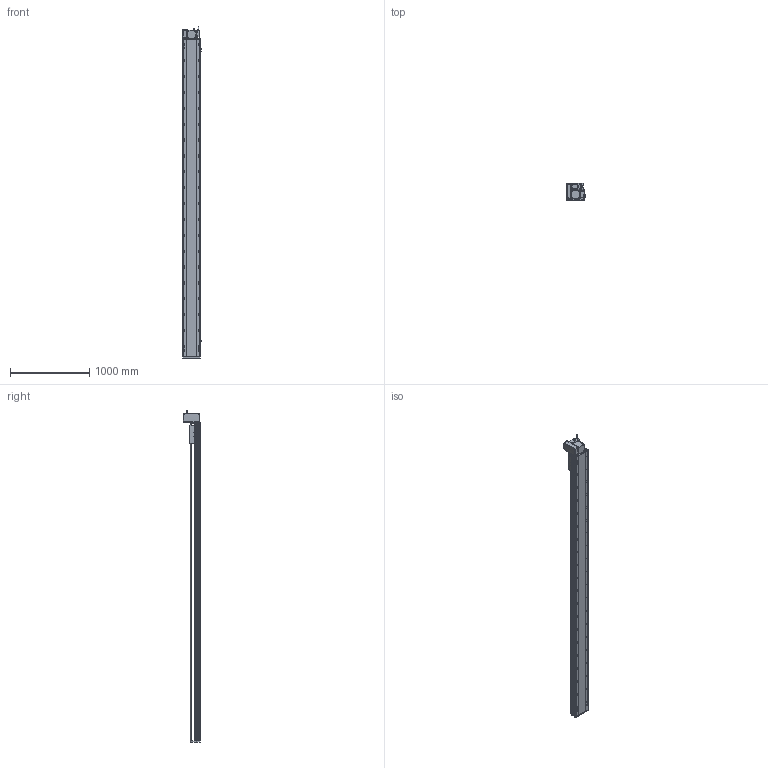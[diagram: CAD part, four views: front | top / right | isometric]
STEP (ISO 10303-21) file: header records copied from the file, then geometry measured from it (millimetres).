
FILE_DESCRIPTION (( 'STEP AP214' ), '1' );
FILE_NAME ('RTB22S-XX-3650-LW-M75-C4.STEP', '2025-12-12T07:09:14', ( '' ), ( '' ), 'SwSTEP 2.0', 'SolidWorks 2018', '' );
FILE_SCHEMA (( 'AUTOMOTIVE_DESIGN' ));
Length unit declared in the file: millimetre
Products named in the file (14): RTB22S-L-011菁釱^RTB22S-XX-XX-LW-M75-C4; RTB22S-GY-017P^RTB22S-LW-々湍釱蚾饜_RTB22S-XX-XX-LW-M75-C4; OMRON EE-SX672 传感器^RTB22S-XX-XX-LW-M75-C4; RTB22S-GY-008-M75--萇儂啣^RTB22S-LW-々湍釱蚾饜_RTB22S-XX-XX-LW-M75-C4; RTB22S-GY-014--々湍釱^RTB22S-LW-々湍釱蚾饜_RTB22S-XX-XX-LW-M75-C4; 750W萇儂^RTB22S-XX-XX-LW-M75-C4; RTB22S-LW-々湍釱蚾饜^RTB22S-XX-XX-LW-M75-C4; RTB22S-XX-3650-LW-M75-C4; RTB22S-GY-005P^RTB22S-LW-々湍釱蚾饜_RTB22S-XX-XX-LW-M75-C4; RTB22S-L-004賑釱^RTB22S-XX-XX-LW-M75-C4; RTH22-GY-013外置感应片^RTB22S-XX-XX-LW-M75-C4; RTB22S-GY-007奻裔^RTB22S-XX-XX-LW-M75-C4; RTB22S-GY-001耜裔^RTB22S-XX-XX-LW-M75-C4; RTB22S-GY-018P^RTB22S-LW-々湍釱蚾饜_RTB22S-XX-XX-LW-M75-C4
Assembly tree (16 placements, depth 3):
  RTB22S-XX-3650-LW-M75-C4
    RTB22S-L-011菁釱^RTB22S-XX-XX-LW-M75-C4
    RTB22S-GY-001耜裔^RTB22S-XX-XX-LW-M75-C4
    750W萇儂^RTB22S-XX-XX-LW-M75-C4
    RTB22S-GY-007奻裔^RTB22S-XX-XX-LW-M75-C4
    RTB22S-L-004賑釱^RTB22S-XX-XX-LW-M75-C4
    RTH22-GY-013外置感应片^RTB22S-XX-XX-LW-M75-C4
    OMRON EE-SX672 传感器^RTB22S-XX-XX-LW-M75-C4  x3
    RTB22S-LW-々湍釱蚾饜^RTB22S-XX-XX-LW-M75-C4
      RTB22S-GY-014--々湍釱^RTB22S-LW-々湍釱蚾饜_RTB22S-XX-XX-LW-M75-C4
      RTB22S-GY-017P^RTB22S-LW-々湍釱蚾饜_RTB22S-XX-XX-LW-M75-C4  x2
      RTB22S-GY-005P^RTB22S-LW-々湍釱蚾饜_RTB22S-XX-XX-LW-M75-C4
      RTB22S-GY-008-M75--萇儂啣^RTB22S-LW-々湍釱蚾饜_RTB22S-XX-XX-LW-M75-C4
      RTB22S-GY-018P^RTB22S-LW-々湍釱蚾饜_RTB22S-XX-XX-LW-M75-C4
Bounding box: 238.5 x 215.5 x 4182.2 mm (x, y, z)
Volume: 52157379.4 mm3; surface area: 5304891.6 mm2
Topology: 15 solids, 15 shells, 2217 faces, 6036 edges, 3842 vertices
Faces by surface type: plane 941, cylinder 778, bspline 296, cone 190, sphere 8, torus 4
Entity records: 61322 total; most frequent: CARTESIAN_POINT 17096, ORIENTED_EDGE 8756, DIRECTION 8652, EDGE_CURVE 4378, AXIS2_PLACEMENT_3D 3138, VERTEX_POINT 2846, LINE 2376, VECTOR 2376
